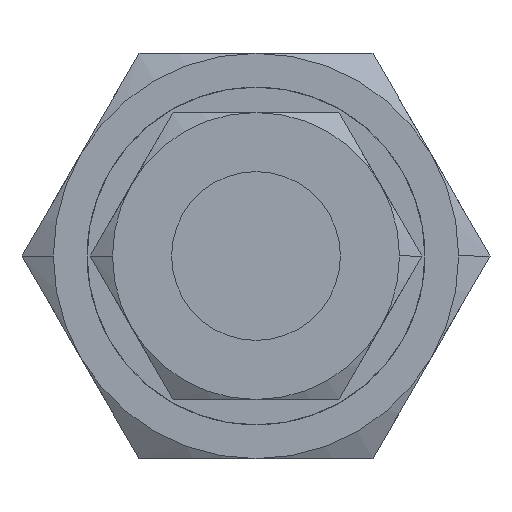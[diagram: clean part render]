
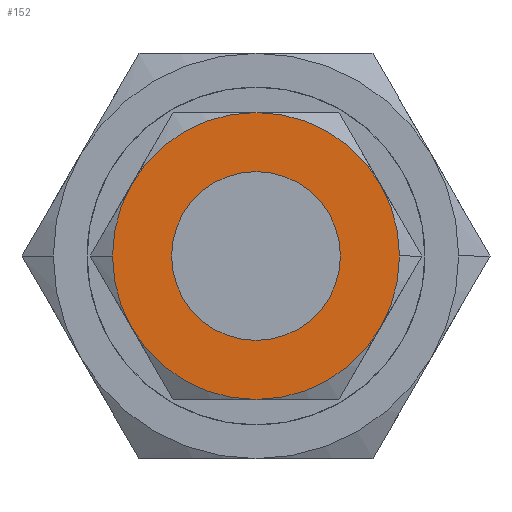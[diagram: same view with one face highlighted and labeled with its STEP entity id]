
A CAD part, left-side view. The second image highlights one B-rep face of the part: STEP entity #152.
In plain terms, the highlighted planar face has unit normal (-1, 0, 0).
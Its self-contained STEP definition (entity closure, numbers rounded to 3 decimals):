
#152 = ADVANCED_FACE( '', ( #276, #277 ), #278, .T. );
#276 = FACE_BOUND( '', #466, .T. );
#277 = FACE_OUTER_BOUND( '', #467, .T. );
#278 = PLANE( '', #468 );
#466 = EDGE_LOOP( '', ( #807, #808 ) );
#467 = EDGE_LOOP( '', ( #809, #810, #811, #812, #813, #814, #815, #816 ) );
#468 = AXIS2_PLACEMENT_3D( '', #817, #818, #819 );
#807 = ORIENTED_EDGE( '', *, *, #1281, .T. );
#808 = ORIENTED_EDGE( '', *, *, #1277, .T. );
#809 = ORIENTED_EDGE( '', *, *, #1321, .T. );
#810 = ORIENTED_EDGE( '', *, *, #1272, .T. );
#811 = ORIENTED_EDGE( '', *, *, #1316, .T. );
#812 = ORIENTED_EDGE( '', *, *, #1317, .T. );
#813 = ORIENTED_EDGE( '', *, *, #1274, .T. );
#814 = ORIENTED_EDGE( '', *, *, #1318, .T. );
#815 = ORIENTED_EDGE( '', *, *, #1319, .T. );
#816 = ORIENTED_EDGE( '', *, *, #1320, .T. );
#817 = CARTESIAN_POINT( '', ( -39., 4.25, 0. ) );
#818 = DIRECTION( '', ( -1., 0., 0. ) );
#819 = DIRECTION( '', ( 0., 1., 0. ) );
#1272 = EDGE_CURVE( '', #1476, #1478, #1480, .T. );
#1274 = EDGE_CURVE( '', #1484, #1481, #1485, .T. );
#1277 = EDGE_CURVE( '', #1490, #1487, #1491, .T. );
#1281 = EDGE_CURVE( '', #1487, #1490, #1496, .T. );
#1316 = EDGE_CURVE( '', #1478, #1542, #1551, .T. );
#1317 = EDGE_CURVE( '', #1542, #1484, #1552, .T. );
#1318 = EDGE_CURVE( '', #1481, #1515, #1553, .T. );
#1319 = EDGE_CURVE( '', #1515, #1524, #1554, .T. );
#1320 = EDGE_CURVE( '', #1524, #1531, #1555, .T. );
#1321 = EDGE_CURVE( '', #1531, #1476, #1556, .T. );
#1476 = VERTEX_POINT( '', #1786 );
#1478 = VERTEX_POINT( '', #1789 );
#1480 = CIRCLE( '', #1800, 8.5 );
#1481 = VERTEX_POINT( '', #1801 );
#1484 = VERTEX_POINT( '', #1805 );
#1485 = CIRCLE( '', #1806, 8.5 );
#1487 = VERTEX_POINT( '', #1817 );
#1490 = VERTEX_POINT( '', #1821 );
#1491 = CIRCLE( '', #1822, 5. );
#1496 = CIRCLE( '', #1828, 5. );
#1515 = VERTEX_POINT( '', #1854 );
#1524 = VERTEX_POINT( '', #1884 );
#1531 = VERTEX_POINT( '', #1911 );
#1542 = VERTEX_POINT( '', #1953 );
#1551 = CIRCLE( '', #1992, 8.5 );
#1552 = CIRCLE( '', #1993, 8.5 );
#1553 = CIRCLE( '', #1994, 8.5 );
#1554 = CIRCLE( '', #1995, 8.5 );
#1555 = CIRCLE( '', #1996, 8.5 );
#1556 = CIRCLE( '', #1997, 8.5 );
#1786 = CARTESIAN_POINT( '', ( -39., 8.5, 0. ) );
#1789 = CARTESIAN_POINT( '', ( -39., 7.361, -4.25 ) );
#1800 = AXIS2_PLACEMENT_3D( '', #2737, #2738, #2739 );
#1801 = CARTESIAN_POINT( '', ( -39., -8.5, 0. ) );
#1805 = CARTESIAN_POINT( '', ( -39., -7.361, -4.25 ) );
#1806 = AXIS2_PLACEMENT_3D( '', #2741, #2742, #2743 );
#1817 = CARTESIAN_POINT( '', ( -39., 5., 0. ) );
#1821 = CARTESIAN_POINT( '', ( -39., -5., 0. ) );
#1822 = AXIS2_PLACEMENT_3D( '', #2745, #2746, #2747 );
#1828 = AXIS2_PLACEMENT_3D( '', #2755, #2756, #2757 );
#1854 = CARTESIAN_POINT( '', ( -39., -7.361, 4.25 ) );
#1884 = CARTESIAN_POINT( '', ( -39., 0., 8.5 ) );
#1911 = CARTESIAN_POINT( '', ( -39., 7.361, 4.25 ) );
#1953 = CARTESIAN_POINT( '', ( -39., 0., -8.5 ) );
#1992 = AXIS2_PLACEMENT_3D( '', #2792, #2793, #2794 );
#1993 = AXIS2_PLACEMENT_3D( '', #2795, #2796, #2797 );
#1994 = AXIS2_PLACEMENT_3D( '', #2798, #2799, #2800 );
#1995 = AXIS2_PLACEMENT_3D( '', #2801, #2802, #2803 );
#1996 = AXIS2_PLACEMENT_3D( '', #2804, #2805, #2806 );
#1997 = AXIS2_PLACEMENT_3D( '', #2807, #2808, #2809 );
#2737 = CARTESIAN_POINT( '', ( -39., 0., 0. ) );
#2738 = DIRECTION( '', ( -1., 0., 0. ) );
#2739 = DIRECTION( '', ( 0., 1., 0. ) );
#2741 = CARTESIAN_POINT( '', ( -39., 0., 0. ) );
#2742 = DIRECTION( '', ( -1., 0., 0. ) );
#2743 = DIRECTION( '', ( 0., 1., 0. ) );
#2745 = CARTESIAN_POINT( '', ( -39., 0., 0. ) );
#2746 = DIRECTION( '', ( 1., 0., 0. ) );
#2747 = DIRECTION( '', ( 0., 1., 0. ) );
#2755 = CARTESIAN_POINT( '', ( -39., 0., 0. ) );
#2756 = DIRECTION( '', ( 1., 0., 0. ) );
#2757 = DIRECTION( '', ( 0., 1., 0. ) );
#2792 = CARTESIAN_POINT( '', ( -39., 0., 0. ) );
#2793 = DIRECTION( '', ( -1., 0., 0. ) );
#2794 = DIRECTION( '', ( 0., 1., 0. ) );
#2795 = CARTESIAN_POINT( '', ( -39., 0., 0. ) );
#2796 = DIRECTION( '', ( -1., 0., 0. ) );
#2797 = DIRECTION( '', ( 0., 1., 0. ) );
#2798 = CARTESIAN_POINT( '', ( -39., 0., 0. ) );
#2799 = DIRECTION( '', ( -1., 0., 0. ) );
#2800 = DIRECTION( '', ( 0., 1., 0. ) );
#2801 = CARTESIAN_POINT( '', ( -39., 0., 0. ) );
#2802 = DIRECTION( '', ( -1., 0., 0. ) );
#2803 = DIRECTION( '', ( 0., 1., 0. ) );
#2804 = CARTESIAN_POINT( '', ( -39., 0., 0. ) );
#2805 = DIRECTION( '', ( -1., 0., 0. ) );
#2806 = DIRECTION( '', ( 0., 1., 0. ) );
#2807 = CARTESIAN_POINT( '', ( -39., 0., 0. ) );
#2808 = DIRECTION( '', ( -1., 0., 0. ) );
#2809 = DIRECTION( '', ( 0., 1., 0. ) );
